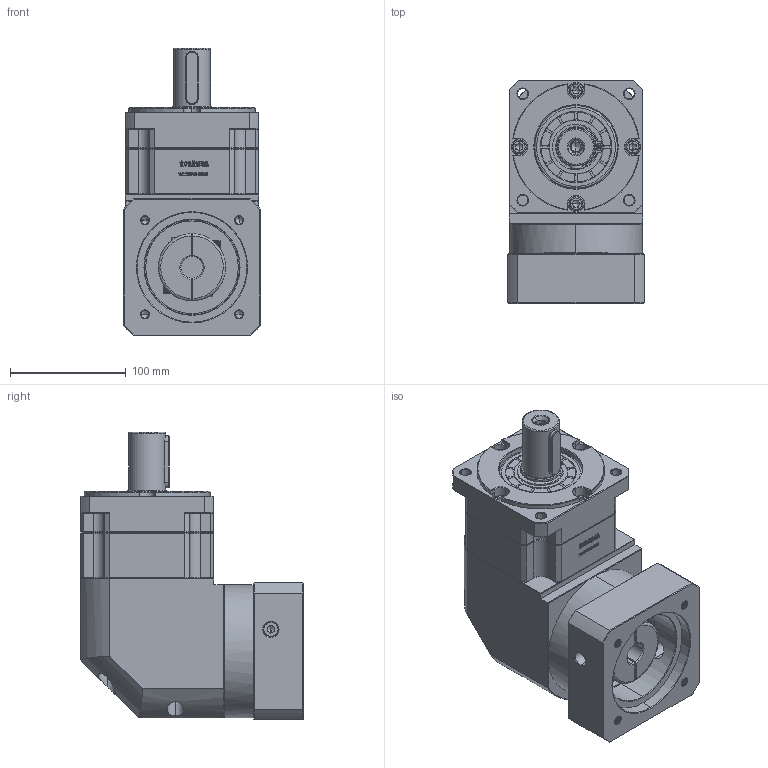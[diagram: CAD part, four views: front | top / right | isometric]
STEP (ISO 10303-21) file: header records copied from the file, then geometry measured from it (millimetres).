
FILE_DESCRIPTION (( 'STEP AP214' ), '1' );
FILE_NAME ('ZBR115A-D32-L1-19-95-115-M8.step', '2023-03-03T04:59:54', ( '' ), ( 'Microsoft' ), 'SwSTEP 2.0', 'SolidWorks 2016', '' );
FILE_SCHEMA (( 'AUTOMOTIVE_DESIGN' ));
Length unit declared in the file: millimetre
Products named in the file (1): ZBR115A-D32-L1-19-95-115-M8
Bounding box: 118 x 192.4 x 248 mm (x, y, z)
Volume: 2977667.5 mm3; surface area: 247800.9 mm2
Topology: 6 solids, 6 shells, 2981 faces, 7924 edges, 5089 vertices
Faces by surface type: plane 1559, bspline 606, cylinder 439, cone 369, torus 8
Entity records: 162109 total; most frequent: CARTESIAN_POINT 60067, ORIENTED_EDGE 15788, DIRECTION 11958, EDGE_CURVE 7894, LINE 5306, VECTOR 5306, VERTEX_POINT 5089, AXIS2_PLACEMENT_3D 3326
